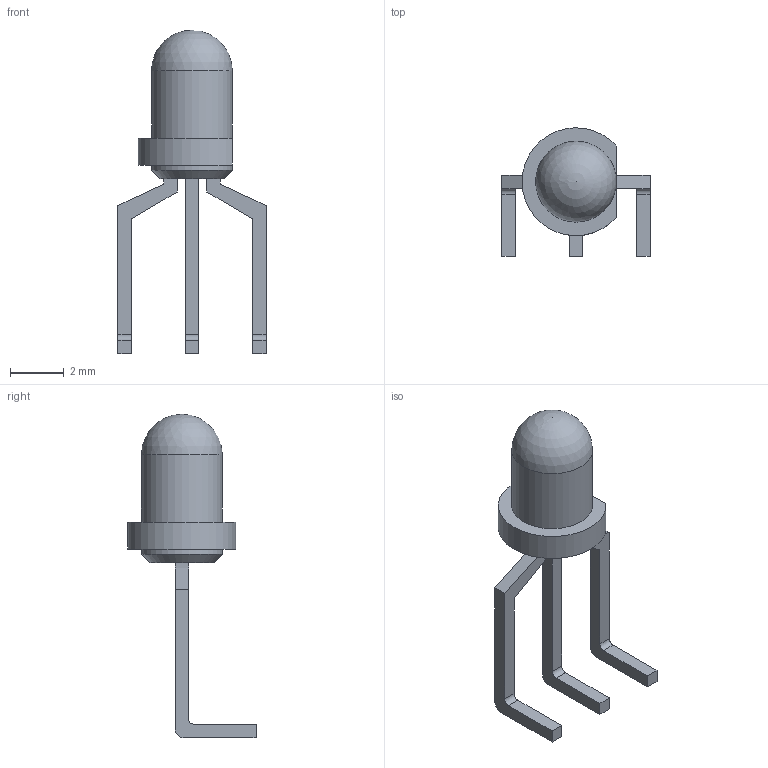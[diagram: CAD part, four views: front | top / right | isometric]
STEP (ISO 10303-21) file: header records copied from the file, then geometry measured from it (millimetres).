
FILE_DESCRIPTION(/* description */ (''),/* implementation_level */ '2;1');
FILE_NAME(/* name */ 'C:/Users/Tom/Downloads/bicolor LED v7.step',/* time_stamp */ '2022-02-09T23:39:38+01:00',/* author */ (''),/* organization */ (''),/* preprocessor_version */ 'ST-DEVELOPER v18.1',/* originating_system */ 'Autodesk Translation Framework v10.13.0.1454',/* authorisation */ '');
FILE_SCHEMA (('AUTOMOTIVE_DESIGN { 1 0 10303 214 3 1 1 }'));
Length unit declared in the file: millimetre
Products named in the file (1): bicolor LED
Bounding box: 5.5 x 4.75 x 12 mm (x, y, z)
Volume: 46.9 mm3; surface area: 129.1 mm2
Topology: 4 solids, 4 shells, 47 faces, 116 edges, 76 vertices
Faces by surface type: plane 36, cylinder 9, cone 1, sphere 1
Full cylindrical faces by diameter (mm): 3 x2
Entity records: 1427 total; most frequent: CARTESIAN_POINT 239, DIRECTION 233, ORIENTED_EDGE 230, EDGE_CURVE 115, LINE 93, VECTOR 93, VERTEX_POINT 76, AXIS2_PLACEMENT_3D 70
